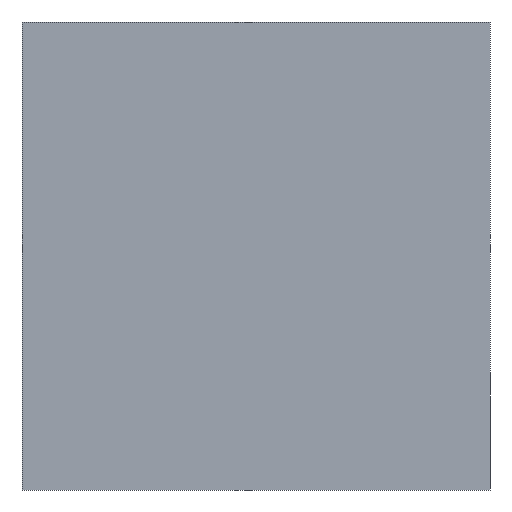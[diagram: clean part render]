
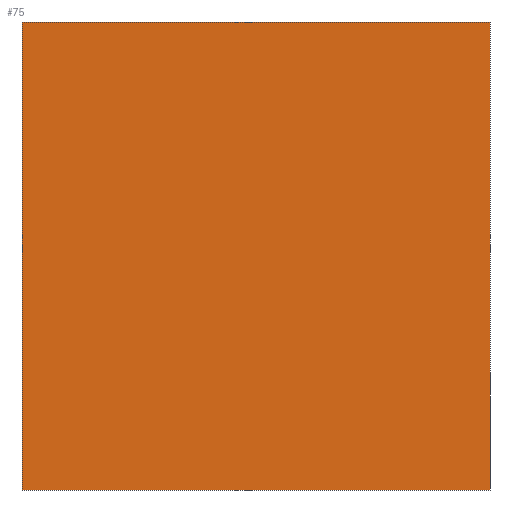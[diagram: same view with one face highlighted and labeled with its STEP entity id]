
A CAD part, front view. The second image highlights one B-rep face of the part: STEP entity #75.
In plain terms, the highlighted planar face has unit normal (0, -1, 0).
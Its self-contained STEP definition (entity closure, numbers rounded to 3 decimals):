
#75 = ADVANCED_FACE( '', ( #137 ), #138, .F. );
#137 = FACE_OUTER_BOUND( '', #183, .T. );
#138 = PLANE( '', #184 );
#183 = EDGE_LOOP( '', ( #260, #261, #262, #263 ) );
#184 = AXIS2_PLACEMENT_3D( '', #264, #265, #266 );
#260 = ORIENTED_EDGE( '', *, *, #290, .T. );
#261 = ORIENTED_EDGE( '', *, *, #292, .F. );
#262 = ORIENTED_EDGE( '', *, *, #275, .F. );
#263 = ORIENTED_EDGE( '', *, *, #296, .T. );
#264 = CARTESIAN_POINT( '', ( 8., -28., 8. ) );
#265 = DIRECTION( '', ( 0., 1., 0. ) );
#266 = DIRECTION( '', ( 0., 0., 1. ) );
#275 = EDGE_CURVE( '', #309, #311, #312, .T. );
#290 = EDGE_CURVE( '', #329, #332, #334, .T. );
#292 = EDGE_CURVE( '', #311, #332, #336, .T. );
#296 = EDGE_CURVE( '', #309, #329, #340, .T. );
#309 = VERTEX_POINT( '', #355 );
#311 = VERTEX_POINT( '', #358 );
#312 = LINE( '', #359, #360 );
#329 = VERTEX_POINT( '', #382 );
#332 = VERTEX_POINT( '', #387 );
#334 = LINE( '', #390, #391 );
#336 = LINE( '', #393, #394 );
#340 = LINE( '', #399, #400 );
#355 = CARTESIAN_POINT( '', ( 8., -28., 8. ) );
#358 = CARTESIAN_POINT( '', ( 8., -28., -8. ) );
#359 = CARTESIAN_POINT( '', ( 8., -28., 8. ) );
#360 = VECTOR( '', #411, 1000. );
#382 = CARTESIAN_POINT( '', ( -8., -28., 8. ) );
#387 = CARTESIAN_POINT( '', ( -8., -28., -8. ) );
#390 = CARTESIAN_POINT( '', ( -8., -28., 8. ) );
#391 = VECTOR( '', #426, 1000. );
#393 = CARTESIAN_POINT( '', ( 8., -28., -8. ) );
#394 = VECTOR( '', #427, 1000. );
#399 = CARTESIAN_POINT( '', ( 8., -28., 8. ) );
#400 = VECTOR( '', #429, 1000. );
#411 = DIRECTION( '', ( 0., 0., -1. ) );
#426 = DIRECTION( '', ( 0., 0., -1. ) );
#427 = DIRECTION( '', ( -1., 0., 0. ) );
#429 = DIRECTION( '', ( -1., 0., 0. ) );
